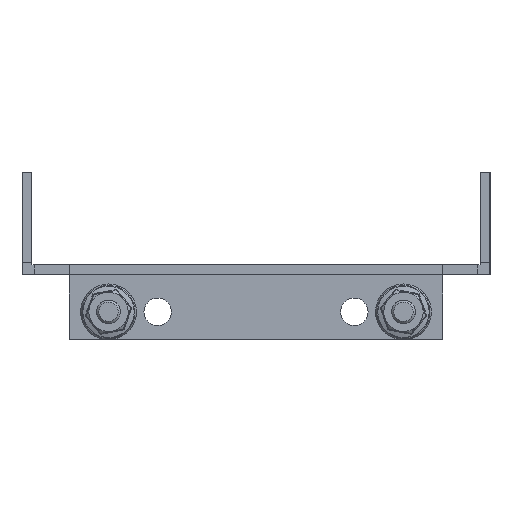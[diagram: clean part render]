
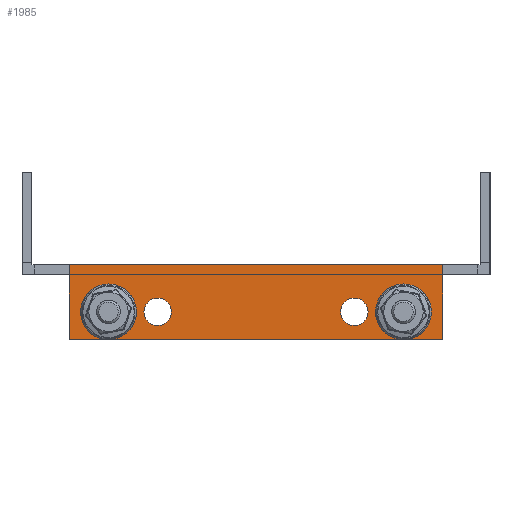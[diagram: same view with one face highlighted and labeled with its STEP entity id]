
A CAD part, left-side view. The second image highlights one B-rep face of the part: STEP entity #1985.
In plain terms, the highlighted planar face has unit normal (-1, 0, 0).
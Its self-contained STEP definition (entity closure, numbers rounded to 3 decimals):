
#152 = VERTEX_POINT('',#153);
#153 = CARTESIAN_POINT('',(-550.,47.5,2.5));
#159 = EDGE_CURVE('',#160,#152,#162,.T.);
#160 = VERTEX_POINT('',#161);
#161 = CARTESIAN_POINT('',(-550.,-47.5,2.5));
#162 = LINE('',#163,#164);
#163 = CARTESIAN_POINT('',(-550.,-57.,2.5));
#164 = VECTOR('',#165,1.);
#165 = DIRECTION('',(-0.,1.,-0.));
#1864 = VERTEX_POINT('',#1865);
#1865 = CARTESIAN_POINT('',(-550.,-47.5,-0.6));
#1880 = EDGE_CURVE('',#1864,#160,#1881,.T.);
#1881 = LINE('',#1882,#1883);
#1882 = CARTESIAN_POINT('',(-550.,-47.5,-0.6));
#1883 = VECTOR('',#1884,1.);
#1884 = DIRECTION('',(0.,-0.,1.));
#1904 = VERTEX_POINT('',#1905);
#1905 = CARTESIAN_POINT('',(-550.,47.5,-0.6));
#1911 = EDGE_CURVE('',#1904,#152,#1912,.T.);
#1912 = LINE('',#1913,#1914);
#1913 = CARTESIAN_POINT('',(-550.,47.5,0.));
#1914 = VECTOR('',#1915,1.);
#1915 = DIRECTION('',(0.,0.,1.));
#1927 = EDGE_CURVE('',#1928,#1904,#1930,.T.);
#1928 = VERTEX_POINT('',#1929);
#1929 = CARTESIAN_POINT('',(-550.,47.5,-16.5));
#1930 = LINE('',#1931,#1932);
#1931 = CARTESIAN_POINT('',(-550.,47.5,0.));
#1932 = VECTOR('',#1933,1.);
#1933 = DIRECTION('',(0.,0.,1.));
#1967 = EDGE_CURVE('',#1864,#1968,#1970,.T.);
#1968 = VERTEX_POINT('',#1969);
#1969 = CARTESIAN_POINT('',(-550.,-47.5,-16.5));
#1970 = LINE('',#1971,#1972);
#1971 = CARTESIAN_POINT('',(-550.,-47.5,-16.5));
#1972 = VECTOR('',#1973,1.);
#1973 = DIRECTION('',(0.,0.,-1.));
#1985 = ADVANCED_FACE('',(#1986,#2006,#2026,#2037,#2048),#2061,.T.);
#1986 = FACE_BOUND('',#1987,.T.);
#1987 = EDGE_LOOP('',(#1988,#1999));
#1988 = ORIENTED_EDGE('',*,*,#1989,.F.);
#1989 = EDGE_CURVE('',#1990,#1992,#1994,.T.);
#1990 = VERTEX_POINT('',#1991);
#1991 = CARTESIAN_POINT('',(-550.,-37.5,-13.));
#1992 = VERTEX_POINT('',#1993);
#1993 = CARTESIAN_POINT('',(-550.,-37.5,-6.));
#1994 = CIRCLE('',#1995,3.5);
#1995 = AXIS2_PLACEMENT_3D('',#1996,#1997,#1998);
#1996 = CARTESIAN_POINT('',(-550.,-37.5,-9.5));
#1997 = DIRECTION('',(-1.,0.,0.));
#1998 = DIRECTION('',(0.,0.,-1.));
#1999 = ORIENTED_EDGE('',*,*,#2000,.F.);
#2000 = EDGE_CURVE('',#1992,#1990,#2001,.T.);
#2001 = CIRCLE('',#2002,3.5);
#2002 = AXIS2_PLACEMENT_3D('',#2003,#2004,#2005);
#2003 = CARTESIAN_POINT('',(-550.,-37.5,-9.5));
#2004 = DIRECTION('',(-1.,0.,0.));
#2005 = DIRECTION('',(0.,0.,-1.));
#2006 = FACE_BOUND('',#2007,.T.);
#2007 = EDGE_LOOP('',(#2008,#2019));
#2008 = ORIENTED_EDGE('',*,*,#2009,.F.);
#2009 = EDGE_CURVE('',#2010,#2012,#2014,.T.);
#2010 = VERTEX_POINT('',#2011);
#2011 = CARTESIAN_POINT('',(-550.,-25.,-13.));
#2012 = VERTEX_POINT('',#2013);
#2013 = CARTESIAN_POINT('',(-550.,-25.,-6.));
#2014 = CIRCLE('',#2015,3.5);
#2015 = AXIS2_PLACEMENT_3D('',#2016,#2017,#2018);
#2016 = CARTESIAN_POINT('',(-550.,-25.,-9.5));
#2017 = DIRECTION('',(-1.,0.,0.));
#2018 = DIRECTION('',(0.,0.,-1.));
#2019 = ORIENTED_EDGE('',*,*,#2020,.F.);
#2020 = EDGE_CURVE('',#2012,#2010,#2021,.T.);
#2021 = CIRCLE('',#2022,3.5);
#2022 = AXIS2_PLACEMENT_3D('',#2023,#2024,#2025);
#2023 = CARTESIAN_POINT('',(-550.,-25.,-9.5));
#2024 = DIRECTION('',(-1.,0.,0.));
#2025 = DIRECTION('',(0.,0.,-1.));
#2026 = FACE_BOUND('',#2027,.T.);
#2027 = EDGE_LOOP('',(#2028));
#2028 = ORIENTED_EDGE('',*,*,#2029,.F.);
#2029 = EDGE_CURVE('',#2030,#2030,#2032,.T.);
#2030 = VERTEX_POINT('',#2031);
#2031 = CARTESIAN_POINT('',(-550.,25.,-6.));
#2032 = CIRCLE('',#2033,3.5);
#2033 = AXIS2_PLACEMENT_3D('',#2034,#2035,#2036);
#2034 = CARTESIAN_POINT('',(-550.,25.,-9.5));
#2035 = DIRECTION('',(-1.,0.,0.));
#2036 = DIRECTION('',(0.,0.,1.));
#2037 = FACE_BOUND('',#2038,.T.);
#2038 = EDGE_LOOP('',(#2039));
#2039 = ORIENTED_EDGE('',*,*,#2040,.F.);
#2040 = EDGE_CURVE('',#2041,#2041,#2043,.T.);
#2041 = VERTEX_POINT('',#2042);
#2042 = CARTESIAN_POINT('',(-550.,37.5,-6.));
#2043 = CIRCLE('',#2044,3.5);
#2044 = AXIS2_PLACEMENT_3D('',#2045,#2046,#2047);
#2045 = CARTESIAN_POINT('',(-550.,37.5,-9.5));
#2046 = DIRECTION('',(-1.,0.,0.));
#2047 = DIRECTION('',(0.,0.,1.));
#2048 = FACE_BOUND('',#2049,.T.);
#2049 = EDGE_LOOP('',(#2050,#2051,#2052,#2053,#2054,#2055));
#2050 = ORIENTED_EDGE('',*,*,#1967,.F.);
#2051 = ORIENTED_EDGE('',*,*,#1880,.T.);
#2052 = ORIENTED_EDGE('',*,*,#159,.T.);
#2053 = ORIENTED_EDGE('',*,*,#1911,.F.);
#2054 = ORIENTED_EDGE('',*,*,#1927,.F.);
#2055 = ORIENTED_EDGE('',*,*,#2056,.F.);
#2056 = EDGE_CURVE('',#1968,#1928,#2057,.T.);
#2057 = LINE('',#2058,#2059);
#2058 = CARTESIAN_POINT('',(-550.,47.5,-16.5));
#2059 = VECTOR('',#2060,1.);
#2060 = DIRECTION('',(-0.,1.,-0.));
#2061 = PLANE('',#2062);
#2062 = AXIS2_PLACEMENT_3D('',#2063,#2064,#2065);
#2063 = CARTESIAN_POINT('',(-550.,47.5,0.));
#2064 = DIRECTION('',(-1.,0.,0.));
#2065 = DIRECTION('',(0.,0.,1.));
